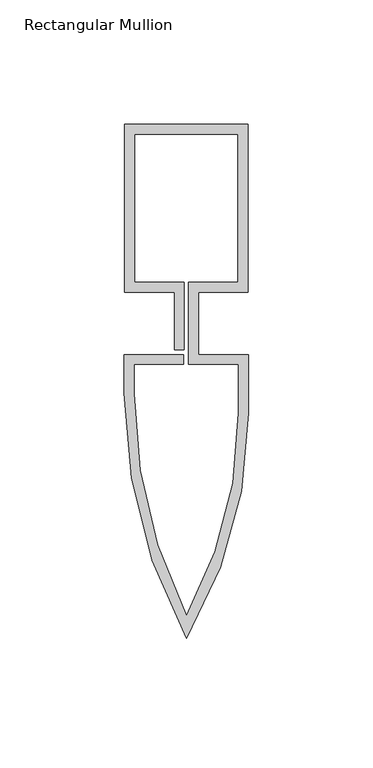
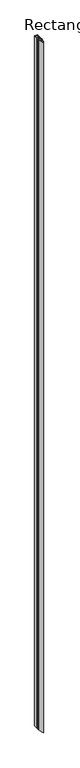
"""IFC4 building model written with IfcOpenShell, lengths in millimetres: member geometry, Rectangular Mullion : Reynaers_CW-50_Mullion-Transom_Horizontal_67.4mm_Facecap-05."""

from ifc_helpers import new_model, si_unit, point, frame, frame_2d, origin, place, context, project, spatial, polyline, circle_curve, trimmed, segment, composite_curve, outline, extrude, source, transform, mapped, element, save


def rectangular_mullion_7b420ca9(model_context):
    return source(origin(), model_context, "Body", "SweptSolid", [
        extrude(outline(composite_curve([segment(polyline([(-24.8004059, 79.9), (24.8004059, 79.9), (24.8004059, 12.5), (4.9004059, 12.5), (4.9004059, -12.5), (24.994845, -12.5), (24.994845, -36.0195976)]), True, "CONTINUOUS"), segment(trimmed(circle_curve(frame_2d((-151.2704106, -36.0195976)), 176.2652556), [point((24.994845, -36.0195976))], [point((0.0, -126.5))], False, "CARTESIAN"), True, "CONTINUOUS"), segment(trimmed(circle_curve(frame_2d((181.1469577, -28.111878)), 206.1418028), [point((0.0, -126.5))], [point((-24.994845, -28.111878))], False, "CARTESIAN"), True, "CONTINUOUS"), segment(polyline([(-24.994845, -28.111878), (-24.994845, -12.5), (-1.0995941, -12.5), (-1.0995941, -16.5), (-20.994845, -16.5), (-20.994845, -28.2355063)]), True, "CONTINUOUS"), segment(trimmed(circle_curve(frame_2d((179.2670132, -28.2355063)), 200.2618582), [point((-20.994845, -28.2355063))], [point((0.0, -117.5))], True, "CARTESIAN"), True, "CONTINUOUS"), segment(trimmed(circle_curve(frame_2d((-147.4777527, -36.0547506)), 168.4725977), [point((0.0, -117.5))], [point((20.994845, -36.0547506))], True, "CARTESIAN"), True, "CONTINUOUS"), segment(polyline([(20.994845, -36.0547506), (20.994845, -16.5), (0.9004059, -16.5), (0.9004059, 16.5), (20.8004059, 16.5), (20.8004059, 75.9), (-20.8004059, 75.9), (-20.8004059, 16.5), (-0.9004059, 16.5), (-0.9004059, -10.5), (-4.9004059, -10.5), (-4.9004059, 12.5), (-24.8004059, 12.5), (-24.8004059, 79.9)]), True, "CONTINUOUS")], self_intersect=False)), frame((0.0, 0.0, -12000.0), z_axis=(0.0, 0.0, 1.0), x_axis=(1.0, 0.0, 0.0)), (0.0, 0.0, 1.0), 12000.0),
    ])


if __name__ == "__main__":
    model = new_model("IFC4")
    model_context = context("Model", 3, world=origin())
    ifc_project = project(units=[si_unit("LENGTHUNIT", "METRE", prefix="MILLI")], contexts=[model_context])
    site = spatial("IfcSite", under=ifc_project)
    building = spatial("IfcBuilding", under=site)
    placement = place(None, origin())
    rectangular_mullion_shape = rectangular_mullion_7b420ca9(model_context)
    element("IfcMember", 1, ObjectType="Rectangular Mullion : Reynaers_CW-50_Mullion-Transom_Horizontal_67.4mm_Facecap-05", at=placement, inside=building, context=model_context, shape_type="MappedRepresentation", body=[
        mapped(rectangular_mullion_shape, transform((0.0, 0.0, 0.0), x_axis=(1.0, 0.0, 0.0), y_axis=(0.0, 1.0, 0.0), z_axis=(0.0, 0.0, 1.0))),
    ])
    save(model, "model.ifc")
